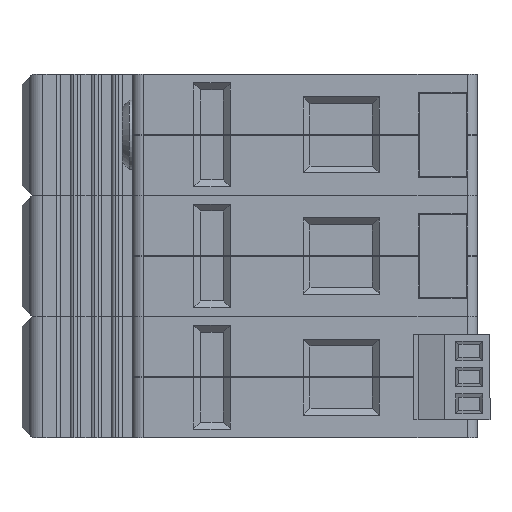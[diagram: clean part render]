
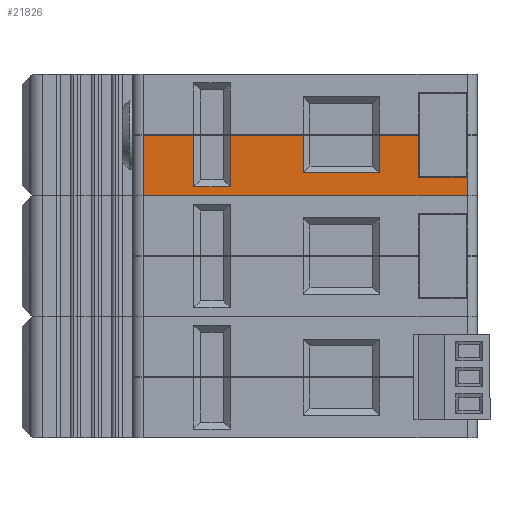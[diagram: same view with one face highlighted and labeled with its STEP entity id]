
A CAD part, left-side view. The second image highlights one B-rep face of the part: STEP entity #21826.
In plain terms, the highlighted planar face has unit normal (-1, 0, 0).
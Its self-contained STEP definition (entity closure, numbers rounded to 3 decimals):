
#2136=FACE_OUTER_BOUND('',#3360,.T.);
#3360=EDGE_LOOP('',(#19192,#19193,#19194,#19195,#19196,#19197,#19198,#19199,
#19200,#19201,#19202,#19203,#19204,#19205));
#5336=LINE('',#34594,#7826);
#5342=LINE('',#34606,#7832);
#5348=LINE('',#34618,#7838);
#5637=LINE('',#35325,#8127);
#5789=LINE('',#35712,#8279);
#5791=LINE('',#35717,#8281);
#5810=LINE('',#35754,#8300);
#5813=LINE('',#35761,#8303);
#5832=LINE('',#35798,#8322);
#5835=LINE('',#35805,#8325);
#5836=LINE('',#35807,#8326);
#5837=LINE('',#35808,#8327);
#5838=LINE('',#35809,#8328);
#5839=LINE('',#35810,#8329);
#7826=VECTOR('',#28268,10.);
#7832=VECTOR('',#28274,10.);
#7838=VECTOR('',#28280,10.);
#8127=VECTOR('',#28821,10.);
#8279=VECTOR('',#29197,10.);
#8281=VECTOR('',#29203,10.);
#8300=VECTOR('',#29238,10.);
#8303=VECTOR('',#29245,10.);
#8322=VECTOR('',#29280,10.);
#8325=VECTOR('',#29287,10.);
#8326=VECTOR('',#29288,10.);
#8327=VECTOR('',#29289,10.);
#8328=VECTOR('',#29290,10.);
#8329=VECTOR('',#29291,10.);
#9985=VERTEX_POINT('',#34591);
#9986=VERTEX_POINT('',#34593);
#9991=VERTEX_POINT('',#34603);
#9992=VERTEX_POINT('',#34605);
#9997=VERTEX_POINT('',#34615);
#9998=VERTEX_POINT('',#34617);
#10283=VERTEX_POINT('',#35322);
#10284=VERTEX_POINT('',#35324);
#10402=VERTEX_POINT('',#35716);
#10412=VERTEX_POINT('',#35752);
#10414=VERTEX_POINT('',#35760);
#10424=VERTEX_POINT('',#35796);
#10426=VERTEX_POINT('',#35804);
#10427=VERTEX_POINT('',#35806);
#12807=EDGE_CURVE('',#9986,#9985,#5336,.T.);
#12813=EDGE_CURVE('',#9992,#9991,#5342,.T.);
#12819=EDGE_CURVE('',#9998,#9997,#5348,.T.);
#13170=EDGE_CURVE('',#10284,#10283,#5637,.T.);
#13363=EDGE_CURVE('',#10284,#9985,#5789,.T.);
#13365=EDGE_CURVE('',#9986,#10402,#5791,.T.);
#13384=EDGE_CURVE('',#10412,#9991,#5810,.T.);
#13387=EDGE_CURVE('',#9992,#10414,#5813,.T.);
#13406=EDGE_CURVE('',#10424,#9997,#5832,.T.);
#13409=EDGE_CURVE('',#10426,#10283,#5835,.T.);
#13410=EDGE_CURVE('',#10426,#10427,#5836,.T.);
#13411=EDGE_CURVE('',#10427,#9998,#5837,.T.);
#13412=EDGE_CURVE('',#10414,#10424,#5838,.T.);
#13413=EDGE_CURVE('',#10402,#10412,#5839,.T.);
#19192=ORIENTED_EDGE('',*,*,#12807,.T.);
#19193=ORIENTED_EDGE('',*,*,#13363,.F.);
#19194=ORIENTED_EDGE('',*,*,#13170,.T.);
#19195=ORIENTED_EDGE('',*,*,#13409,.F.);
#19196=ORIENTED_EDGE('',*,*,#13410,.T.);
#19197=ORIENTED_EDGE('',*,*,#13411,.T.);
#19198=ORIENTED_EDGE('',*,*,#12819,.T.);
#19199=ORIENTED_EDGE('',*,*,#13406,.F.);
#19200=ORIENTED_EDGE('',*,*,#13412,.F.);
#19201=ORIENTED_EDGE('',*,*,#13387,.F.);
#19202=ORIENTED_EDGE('',*,*,#12813,.T.);
#19203=ORIENTED_EDGE('',*,*,#13384,.F.);
#19204=ORIENTED_EDGE('',*,*,#13413,.F.);
#19205=ORIENTED_EDGE('',*,*,#13365,.F.);
#20744=PLANE('',#23700);
#21826=ADVANCED_FACE('',(#2136),#20744,.T.);
#23700=AXIS2_PLACEMENT_3D('',#35803,#29285,#29286);
#28268=DIRECTION('',(0.,1.,0.));
#28274=DIRECTION('',(0.,1.,0.));
#28280=DIRECTION('',(0.,1.,0.));
#28821=DIRECTION('',(0.,-1.,0.));
#29197=DIRECTION('',(0.,0.,1.));
#29203=DIRECTION('',(0.,0.,-1.));
#29238=DIRECTION('',(0.,0.,1.));
#29245=DIRECTION('',(0.,0.,-1.));
#29280=DIRECTION('',(0.,0.,1.));
#29285=DIRECTION('center_axis',(-1.,0.,0.));
#29286=DIRECTION('ref_axis',(0.,-1.,0.));
#29287=DIRECTION('',(0.,0.,-1.));
#29288=DIRECTION('',(0.,1.,0.));
#29289=DIRECTION('',(0.,0.,1.));
#29290=DIRECTION('',(0.,-1.,0.));
#29291=DIRECTION('',(0.,-1.,0.));
#34591=CARTESIAN_POINT('',(-45.,12.5,8.7));
#34593=CARTESIAN_POINT('',(-45.,5.2,8.7));
#34594=CARTESIAN_POINT('',(-45.,4.197,8.7));
#34603=CARTESIAN_POINT('',(-45.,-0.1,8.7));
#34605=CARTESIAN_POINT('',(-45.,-10.6,8.7));
#34606=CARTESIAN_POINT('',(-45.,4.197,8.7));
#34615=CARTESIAN_POINT('',(-45.,-21.6,8.7));
#34617=CARTESIAN_POINT('',(-45.,-27.3,8.7));
#34618=CARTESIAN_POINT('',(-45.,4.197,8.7));
#35322=CARTESIAN_POINT('',(-45.,-34.3,0.));
#35324=CARTESIAN_POINT('',(-45.,12.5,0.));
#35325=CARTESIAN_POINT('',(-45.,14.,0.));
#35712=CARTESIAN_POINT('',(-45.,12.5,0.));
#35716=CARTESIAN_POINT('',(-45.,5.2,1.25));
#35717=CARTESIAN_POINT('',(-45.,5.2,1.125));
#35752=CARTESIAN_POINT('',(-45.,-0.1,1.25));
#35754=CARTESIAN_POINT('',(-45.,-0.1,7.625));
#35760=CARTESIAN_POINT('',(-45.,-10.6,3.25));
#35761=CARTESIAN_POINT('',(-45.,-10.6,2.125));
#35796=CARTESIAN_POINT('',(-45.,-21.6,3.25));
#35798=CARTESIAN_POINT('',(-45.,-21.6,6.625));
#35803=CARTESIAN_POINT('Origin',(-45.,14.,0.));
#35804=CARTESIAN_POINT('',(-45.,-34.3,2.64));
#35805=CARTESIAN_POINT('',(-45.,-34.3,0.));
#35806=CARTESIAN_POINT('',(-45.,-27.3,2.64));
#35807=CARTESIAN_POINT('',(-45.,-10.15,2.64));
#35808=CARTESIAN_POINT('',(-45.,-27.3,1.32));
#35809=CARTESIAN_POINT('',(-45.,-3.3,3.25));
#35810=CARTESIAN_POINT('',(-45.,7.45,1.25));
